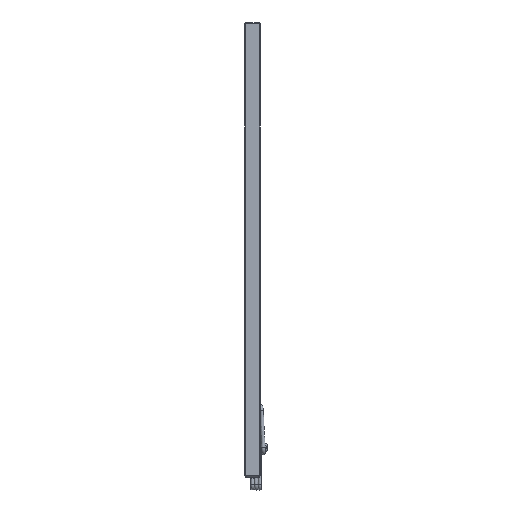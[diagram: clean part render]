
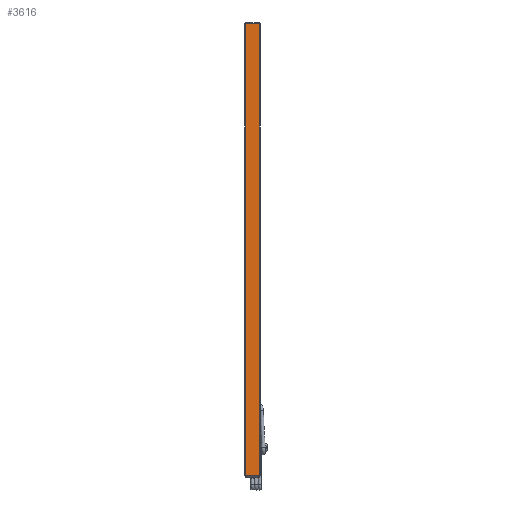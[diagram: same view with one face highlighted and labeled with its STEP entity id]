
A CAD part, front view. The second image highlights one B-rep face of the part: STEP entity #3616.
In plain terms, the highlighted planar face has unit normal (0, -1, 0).
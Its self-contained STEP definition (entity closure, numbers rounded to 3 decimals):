
#3338=CARTESIAN_POINT('',(18.421,0.,1219.2));
#3339=VERTEX_POINT('',#3338);
#3347=CARTESIAN_POINT('',(18.421,0.,0.0));
#3348=VERTEX_POINT('',#3347);
#3349=CARTESIAN_POINT('',(18.421,0.0,1219.2));
#3350=DIRECTION('',(0.0,0.0,-1.0));
#3351=VECTOR('',#3350,1219.2);
#3352=LINE('',#3349,#3351);
#3353=EDGE_CURVE('',#3339,#3348,#3352,.T.);
#3379=CARTESIAN_POINT('',(-18.421,0.,0.0));
#3380=VERTEX_POINT('',#3379);
#3381=CARTESIAN_POINT('',(-18.421,0.,0.0));
#3382=DIRECTION('',(1.0,0.0,0.0));
#3383=VECTOR('',#3382,36.842);
#3384=LINE('',#3381,#3383);
#3385=EDGE_CURVE('',#3380,#3348,#3384,.T.);
#3593=CARTESIAN_POINT('',(18.735,0.0,0.0));
#3594=DIRECTION('',(0.0,-1.0,0.0));
#3595=DIRECTION('',(0.0,0.0,-1.0));
#3596=AXIS2_PLACEMENT_3D('',#3593,#3594,#3595);
#3597=PLANE('',#3596);
#3598=ORIENTED_EDGE('',*,*,#3353,.F.);
#3599=CARTESIAN_POINT('',(-18.421,0.,1219.2));
#3600=VERTEX_POINT('',#3599);
#3601=CARTESIAN_POINT('',(18.421,0.,1219.2));
#3602=DIRECTION('',(-1.0,0.0,0.0));
#3603=VECTOR('',#3602,36.842);
#3604=LINE('',#3601,#3603);
#3605=EDGE_CURVE('',#3339,#3600,#3604,.T.);
#3606=ORIENTED_EDGE('',*,*,#3605,.T.);
#3607=CARTESIAN_POINT('',(-18.421,0.0,0.0));
#3608=DIRECTION('',(0.0,0.0,1.0));
#3609=VECTOR('',#3608,1219.2);
#3610=LINE('',#3607,#3609);
#3611=EDGE_CURVE('',#3380,#3600,#3610,.T.);
#3612=ORIENTED_EDGE('',*,*,#3611,.F.);
#3613=ORIENTED_EDGE('',*,*,#3385,.T.);
#3614=EDGE_LOOP('',(#3598,#3606,#3612,#3613));
#3615=FACE_OUTER_BOUND('',#3614,.T.);
#3616=ADVANCED_FACE('',(#3615),#3597,.T.);
